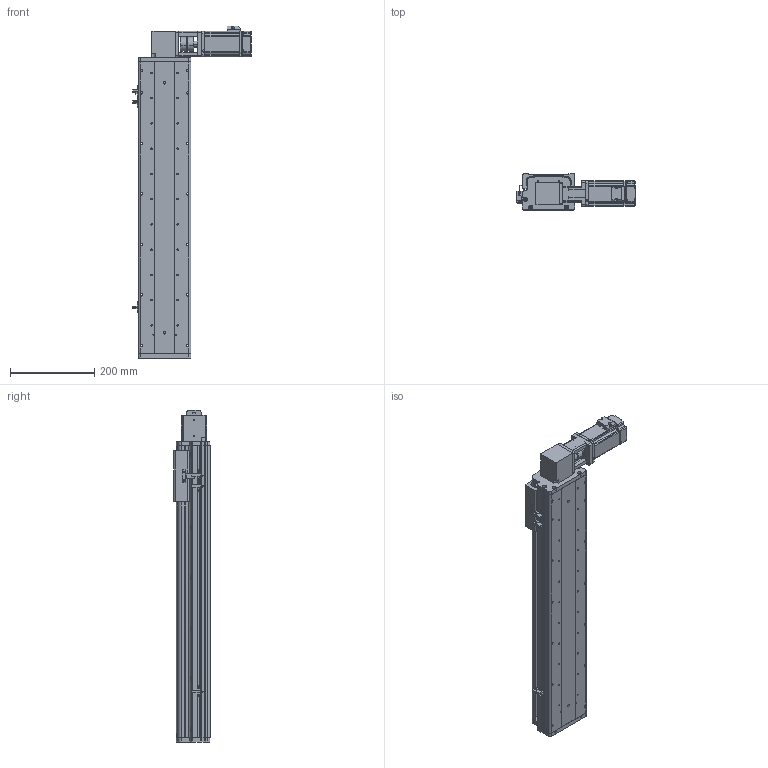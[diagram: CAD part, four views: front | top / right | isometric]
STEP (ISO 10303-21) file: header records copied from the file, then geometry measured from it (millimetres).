
FILE_DESCRIPTION (( 'STEP AP214' ), '1' );
FILE_NAME ('KSD125B-S500-MRT-CM.STEP', '2017-10-21T06:52:25', ( '微软用户' ), ( '微软中国' ), 'SwSTEP 2.0', 'SolidWorks 2014', '' );
FILE_SCHEMA (( 'AUTOMOTIVE_DESIGN' ));
Length unit declared in the file: millimetre
Products named in the file (16): KSD125模组500行程同步带-防尘盖; KSD125模组同步带-滑动座1; 125模组500行程同步带-底板; KSD125B-S500-MRT-CM; MHMD042G1CA_2_03; 100宽马达安装板同步带左; KSD125模组同步带-防撞垫2; CS-34X32-10X14; 100遵鎮湛假蚾啣1 ; 覜茼え68遵圉猾敕; U倰嫖萇假蚾璃; U倰嫖萇EEㄜSX672; KSD125模组同步带-防撞垫1; 100宽安装板同步带带电机座400W,86; 前端板-125宽模组同步带; 125模组同步带-尾端板1
Assembly tree (19 placements, depth 2):
  KSD125B-S500-MRT-CM
    125模组500行程同步带-底板
    KSD125模组同步带-滑动座1
    KSD125模组500行程同步带-防尘盖
    125模组同步带-尾端板1
    前端板-125宽模组同步带
    100宽安装板同步带带电机座400W,86
    KSD125模组同步带-防撞垫1
    U倰嫖萇EEㄜSX672  x3
    U倰嫖萇假蚾璃  x3
    覜茼え68遵圉猾敕
    100遵鎮湛假蚾啣1 
    CS-34X32-10X14
    KSD125模组同步带-防撞垫2
    100宽马达安装板同步带左
    MHMD042G1CA_2_03
Bounding box: 282.7 x 86 x 789 mm (x, y, z)
Volume: 2572533.2 mm3; surface area: 868524.4 mm2
Topology: 18 solids, 21 shells, 1652 faces, 4732 edges, 3120 vertices
Faces by surface type: cylinder 849, plane 700, cone 81, bspline 22
Entity records: 57792 total; most frequent: CARTESIAN_POINT 11738, DIRECTION 8451, ORIENTED_EDGE 7984, EDGE_CURVE 4070, AXIS2_PLACEMENT_3D 3129, VERTEX_POINT 2712, VECTOR 2193, LINE 2193
